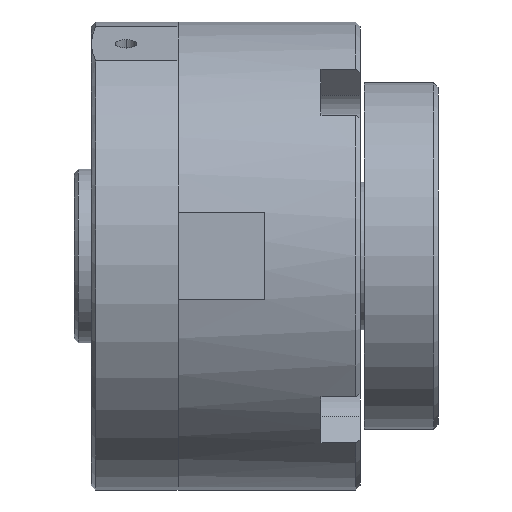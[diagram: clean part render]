
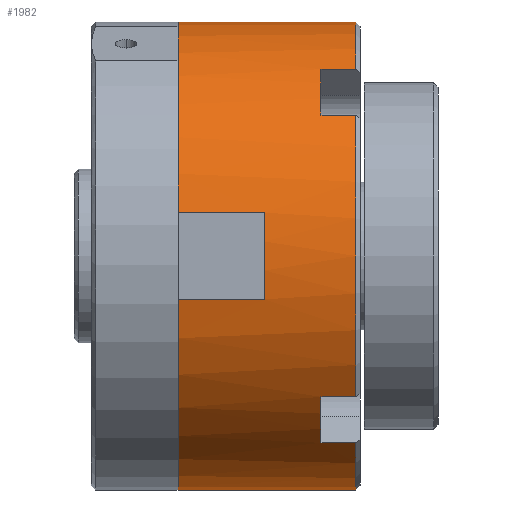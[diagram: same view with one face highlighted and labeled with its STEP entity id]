
A CAD part, left-side view. The second image highlights one B-rep face of the part: STEP entity #1982.
In plain terms, the highlighted cylindrical face has radius 27 mm (diameter 54 mm), a partial arc.
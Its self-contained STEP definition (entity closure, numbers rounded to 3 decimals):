
#74 = DIRECTION ( 'NONE',  ( 0., 0., -1. ) ) ;
#164 = EDGE_CURVE ( 'NONE', #5650, #5073, #902, .T. ) ;
#171 = CARTESIAN_POINT ( 'NONE',  ( -16.255, -30.5, -21.558 ) ) ;
#173 = LINE ( 'NONE', #3091, #4870 ) ;
#216 = DIRECTION ( 'NONE',  ( 0., 1., 0. ) ) ;
#325 = EDGE_CURVE ( 'NONE', #1039, #4884, #2622, .T. ) ;
#363 = EDGE_CURVE ( 'NONE', #630, #2104, #3556, .T. ) ;
#372 = CIRCLE ( 'NONE', #4157, 27. ) ;
#462 = ORIENTED_EDGE ( 'NONE', *, *, #363, .T. ) ;
#506 = ORIENTED_EDGE ( 'NONE', *, *, #3808, .T. ) ;
#508 = CIRCLE ( 'NONE', #3868, 27. ) ;
#561 = CARTESIAN_POINT ( 'NONE',  ( -21.558, -26.5, 16.255 ) ) ;
#604 = DIRECTION ( 'NONE',  ( 0., 1., 0. ) ) ;
#630 = VERTEX_POINT ( 'NONE', #5197 ) ;
#643 = DIRECTION ( 'NONE',  ( 0., 1., 0. ) ) ;
#655 = VECTOR ( 'NONE', #4488, 1000. ) ;
#682 = VECTOR ( 'NONE', #643, 1000. ) ;
#699 = DIRECTION ( 'NONE',  ( 0., 1., 0. ) ) ;
#729 = CARTESIAN_POINT ( 'NONE',  ( -21.558, -26.5, -16.255 ) ) ;
#833 = VERTEX_POINT ( 'NONE', #561 ) ;
#841 = DIRECTION ( 'NONE',  ( 0., 1., 0. ) ) ;
#868 = EDGE_CURVE ( 'NONE', #4480, #2568, #4347, .T. ) ;
#885 = VECTOR ( 'NONE', #4566, 1000. ) ;
#902 = LINE ( 'NONE', #5478, #4841 ) ;
#918 = ORIENTED_EDGE ( 'NONE', *, *, #164, .T. ) ;
#957 = ORIENTED_EDGE ( 'NONE', *, *, #4837, .F. ) ;
#987 = CARTESIAN_POINT ( 'NONE',  ( 0., -26.5, 0. ) ) ;
#1008 = DIRECTION ( 'NONE',  ( 0., -1., 0. ) ) ;
#1039 = VERTEX_POINT ( 'NONE', #3021 ) ;
#1259 = VECTOR ( 'NONE', #5200, 1000. ) ;
#1282 = CARTESIAN_POINT ( 'NONE',  ( -16.255, -31., 21.558 ) ) ;
#1313 = VERTEX_POINT ( 'NONE', #2588 ) ;
#1429 = DIRECTION ( 'NONE',  ( 0., 0., -1. ) ) ;
#1469 = ORIENTED_EDGE ( 'NONE', *, *, #2338, .T. ) ;
#1691 = CARTESIAN_POINT ( 'NONE',  ( -16.255, -26.5, -21.558 ) ) ;
#1725 = CIRCLE ( 'NONE', #4074, 27. ) ;
#1750 = CARTESIAN_POINT ( 'NONE',  ( -21.558, -31., -16.255 ) ) ;
#1756 = ORIENTED_EDGE ( 'NONE', *, *, #2599, .T. ) ;
#1766 = EDGE_CURVE ( 'NONE', #1313, #2104, #5514, .T. ) ;
#1852 = CARTESIAN_POINT ( 'NONE',  ( -16.255, -26.5, 21.558 ) ) ;
#1929 = CIRCLE ( 'NONE', #2906, 27. ) ;
#1982 = ADVANCED_FACE ( 'NONE', ( #3031 ), #4085, .T. ) ;
#2021 = CARTESIAN_POINT ( 'NONE',  ( -16.255, -31., -21.558 ) ) ;
#2039 = CARTESIAN_POINT ( 'NONE',  ( -26.533, -31., 5. ) ) ;
#2058 = EDGE_LOOP ( 'NONE', ( #957, #5476, #1756, #2904, #5698, #2953, #1469, #3740, #4534, #4472, #918, #5259, #462, #3278, #506, #3768 ) ) ;
#2104 = VERTEX_POINT ( 'NONE', #5335 ) ;
#2115 = LINE ( 'NONE', #2735, #885 ) ;
#2207 = CARTESIAN_POINT ( 'NONE',  ( 0., -30.5, 0. ) ) ;
#2223 = DIRECTION ( 'NONE',  ( 0., -1., 0. ) ) ;
#2338 = EDGE_CURVE ( 'NONE', #4884, #833, #2115, .T. ) ;
#2352 = VERTEX_POINT ( 'NONE', #1852 ) ;
#2358 = DIRECTION ( 'NONE',  ( 0., 1., 0. ) ) ;
#2497 = CARTESIAN_POINT ( 'NONE',  ( 0., -31., -27. ) ) ;
#2504 = CARTESIAN_POINT ( 'NONE',  ( 0., -10., 0. ) ) ;
#2543 = AXIS2_PLACEMENT_3D ( 'NONE', #4173, #2358, #5542 ) ;
#2568 = VERTEX_POINT ( 'NONE', #171 ) ;
#2588 = CARTESIAN_POINT ( 'NONE',  ( -26.533, -20., -5. ) ) ;
#2599 = EDGE_CURVE ( 'NONE', #2568, #5308, #4592, .T. ) ;
#2622 = CIRCLE ( 'NONE', #3037, 27. ) ;
#2650 = AXIS2_PLACEMENT_3D ( 'NONE', #3578, #841, #4036 ) ;
#2652 = DIRECTION ( 'NONE',  ( 0., 0., -1. ) ) ;
#2668 = CARTESIAN_POINT ( 'NONE',  ( 0., -30.5, -27. ) ) ;
#2735 = CARTESIAN_POINT ( 'NONE',  ( -21.558, -31., 16.255 ) ) ;
#2798 = DIRECTION ( 'NONE',  ( 0., -1., 0. ) ) ;
#2872 = CARTESIAN_POINT ( 'NONE',  ( 0., -30.5, 27. ) ) ;
#2904 = ORIENTED_EDGE ( 'NONE', *, *, #4016, .F. ) ;
#2906 = AXIS2_PLACEMENT_3D ( 'NONE', #3748, #1008, #4215 ) ;
#2933 = VECTOR ( 'NONE', #2223, 1000. ) ;
#2942 = CARTESIAN_POINT ( 'NONE',  ( 0., -30.5, 0. ) ) ;
#2953 = ORIENTED_EDGE ( 'NONE', *, *, #325, .T. ) ;
#2968 = DIRECTION ( 'NONE',  ( 0., 0., -1. ) ) ;
#3021 = CARTESIAN_POINT ( 'NONE',  ( -21.558, -30.5, -16.255 ) ) ;
#3031 = FACE_OUTER_BOUND ( 'NONE', #2058, .T. ) ;
#3037 = AXIS2_PLACEMENT_3D ( 'NONE', #2942, #216, #3408 ) ;
#3083 = LINE ( 'NONE', #1282, #655 ) ;
#3091 = CARTESIAN_POINT ( 'NONE',  ( -26.533, -31., -5. ) ) ;
#3115 = AXIS2_PLACEMENT_3D ( 'NONE', #3357, #604, #3799 ) ;
#3132 = VERTEX_POINT ( 'NONE', #729 ) ;
#3278 = ORIENTED_EDGE ( 'NONE', *, *, #1766, .F. ) ;
#3357 = CARTESIAN_POINT ( 'NONE',  ( 0., -30.5, 0. ) ) ;
#3391 = DIRECTION ( 'NONE',  ( 0., 1., 0. ) ) ;
#3408 = DIRECTION ( 'NONE',  ( 0., 0., -1. ) ) ;
#3549 = CARTESIAN_POINT ( 'NONE',  ( -16.255, -30.5, 21.558 ) ) ;
#3556 = LINE ( 'NONE', #2039, #1259 ) ;
#3578 = CARTESIAN_POINT ( 'NONE',  ( 0., -20., 0. ) ) ;
#3594 = EDGE_CURVE ( 'NONE', #4335, #5650, #1725, .T. ) ;
#3740 = ORIENTED_EDGE ( 'NONE', *, *, #4675, .F. ) ;
#3748 = CARTESIAN_POINT ( 'NONE',  ( 0., -26.5, 0. ) ) ;
#3768 = ORIENTED_EDGE ( 'NONE', *, *, #4002, .T. ) ;
#3784 = CARTESIAN_POINT ( 'NONE',  ( 0., -10., 27. ) ) ;
#3799 = DIRECTION ( 'NONE',  ( 0., 0., -1. ) ) ;
#3808 = EDGE_CURVE ( 'NONE', #1313, #5535, #173, .T. ) ;
#3868 = AXIS2_PLACEMENT_3D ( 'NONE', #5530, #2798, #74 ) ;
#3885 = CARTESIAN_POINT ( 'NONE',  ( 0., -10., -27. ) ) ;
#3908 = AXIS2_PLACEMENT_3D ( 'NONE', #2504, #5693, #2968 ) ;
#3938 = CARTESIAN_POINT ( 'NONE',  ( -21.558, -30.5, 16.255 ) ) ;
#4002 = EDGE_CURVE ( 'NONE', #5535, #5177, #508, .T. ) ;
#4016 = EDGE_CURVE ( 'NONE', #3132, #5308, #372, .T. ) ;
#4036 = DIRECTION ( 'NONE',  ( 0., 0., 1. ) ) ;
#4074 = AXIS2_PLACEMENT_3D ( 'NONE', #2207, #5379, #2652 ) ;
#4085 = CYLINDRICAL_SURFACE ( 'NONE', #2543, 27. ) ;
#4144 = VECTOR ( 'NONE', #699, 1000. ) ;
#4157 = AXIS2_PLACEMENT_3D ( 'NONE', #987, #4187, #1429 ) ;
#4173 = CARTESIAN_POINT ( 'NONE',  ( 0., -31., 0. ) ) ;
#4187 = DIRECTION ( 'NONE',  ( 0., -1., 0. ) ) ;
#4215 = DIRECTION ( 'NONE',  ( 0., 0., -1. ) ) ;
#4335 = VERTEX_POINT ( 'NONE', #3549 ) ;
#4347 = CIRCLE ( 'NONE', #3115, 27. ) ;
#4388 = EDGE_CURVE ( 'NONE', #2352, #4335, #3083, .T. ) ;
#4472 = ORIENTED_EDGE ( 'NONE', *, *, #3594, .T. ) ;
#4480 = VERTEX_POINT ( 'NONE', #2668 ) ;
#4488 = DIRECTION ( 'NONE',  ( 0., -1., 0. ) ) ;
#4534 = ORIENTED_EDGE ( 'NONE', *, *, #4388, .T. ) ;
#4566 = DIRECTION ( 'NONE',  ( 0., 1., 0. ) ) ;
#4573 = CARTESIAN_POINT ( 'NONE',  ( -26.533, -10., -5. ) ) ;
#4592 = LINE ( 'NONE', #2021, #682 ) ;
#4675 = EDGE_CURVE ( 'NONE', #2352, #833, #1929, .T. ) ;
#4720 = CIRCLE ( 'NONE', #3908, 27. ) ;
#4837 = EDGE_CURVE ( 'NONE', #4480, #5177, #5349, .T. ) ;
#4841 = VECTOR ( 'NONE', #3391, 1000. ) ;
#4870 = VECTOR ( 'NONE', #5816, 1000. ) ;
#4884 = VERTEX_POINT ( 'NONE', #3938 ) ;
#5073 = VERTEX_POINT ( 'NONE', #3784 ) ;
#5166 = EDGE_CURVE ( 'NONE', #5073, #630, #4720, .T. ) ;
#5177 = VERTEX_POINT ( 'NONE', #3885 ) ;
#5197 = CARTESIAN_POINT ( 'NONE',  ( -26.533, -10., 5. ) ) ;
#5200 = DIRECTION ( 'NONE',  ( 0., -1., 0. ) ) ;
#5259 = ORIENTED_EDGE ( 'NONE', *, *, #5166, .T. ) ;
#5308 = VERTEX_POINT ( 'NONE', #1691 ) ;
#5335 = CARTESIAN_POINT ( 'NONE',  ( -26.533, -20., 5. ) ) ;
#5342 = LINE ( 'NONE', #1750, #2933 ) ;
#5349 = LINE ( 'NONE', #2497, #4144 ) ;
#5379 = DIRECTION ( 'NONE',  ( 0., 1., 0. ) ) ;
#5415 = EDGE_CURVE ( 'NONE', #3132, #1039, #5342, .T. ) ;
#5476 = ORIENTED_EDGE ( 'NONE', *, *, #868, .T. ) ;
#5478 = CARTESIAN_POINT ( 'NONE',  ( 0., -31., 27. ) ) ;
#5514 = CIRCLE ( 'NONE', #2650, 27. ) ;
#5530 = CARTESIAN_POINT ( 'NONE',  ( 0., -10., 0. ) ) ;
#5535 = VERTEX_POINT ( 'NONE', #4573 ) ;
#5542 = DIRECTION ( 'NONE',  ( 0., 0., 1. ) ) ;
#5650 = VERTEX_POINT ( 'NONE', #2872 ) ;
#5693 = DIRECTION ( 'NONE',  ( 0., -1., 0. ) ) ;
#5698 = ORIENTED_EDGE ( 'NONE', *, *, #5415, .T. ) ;
#5816 = DIRECTION ( 'NONE',  ( 0., 1., 0. ) ) ;
